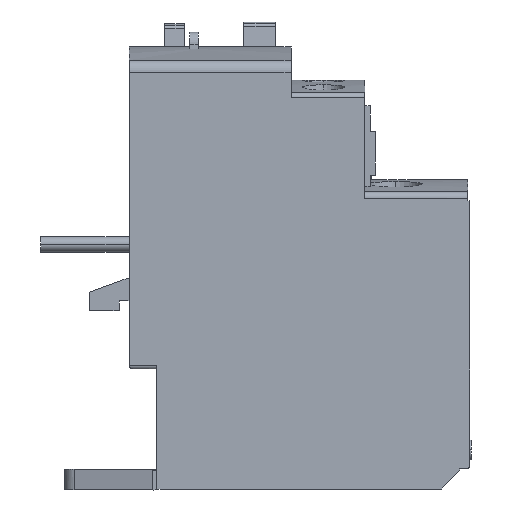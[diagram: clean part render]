
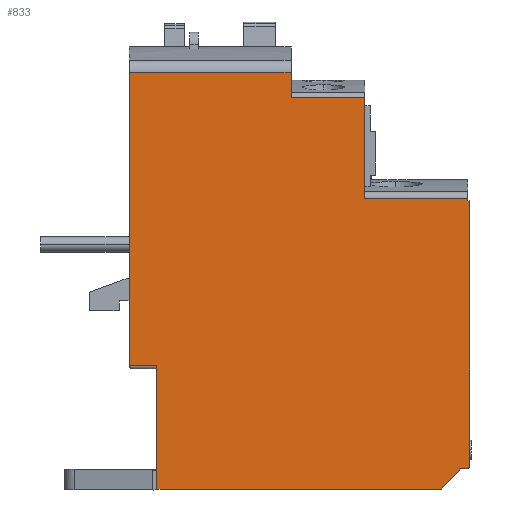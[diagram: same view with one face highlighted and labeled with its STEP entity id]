
A CAD part, left-side view. The second image highlights one B-rep face of the part: STEP entity #833.
In plain terms, the highlighted planar face has unit normal (-1, 0, 0).
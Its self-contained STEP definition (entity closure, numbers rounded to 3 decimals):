
#833=ADVANCED_FACE('',(#1720),#1721,.T.);
#1720=FACE_OUTER_BOUND('',#2628,.T.);
#1721=PLANE('',#2629);
#2628=EDGE_LOOP('',(#5109,#5110,#5111,#5112,#5113,#5114,#5115,#5116,#5117,#5118,#5119,#5120,#5121,#5122,#5123,#5124,#5125));
#2629=AXIS2_PLACEMENT_3D('',#5126,#5127,#5128);
#5109=ORIENTED_EDGE('',*,*,#7555,.F.);
#5110=ORIENTED_EDGE('',*,*,#7572,.T.);
#5111=ORIENTED_EDGE('',*,*,#7573,.T.);
#5112=ORIENTED_EDGE('',*,*,#7574,.F.);
#5113=ORIENTED_EDGE('',*,*,#7575,.F.);
#5114=ORIENTED_EDGE('',*,*,#7576,.F.);
#5115=ORIENTED_EDGE('',*,*,#7577,.F.);
#5116=ORIENTED_EDGE('',*,*,#7578,.F.);
#5117=ORIENTED_EDGE('',*,*,#7579,.F.);
#5118=ORIENTED_EDGE('',*,*,#7580,.F.);
#5119=ORIENTED_EDGE('',*,*,#7029,.F.);
#5120=ORIENTED_EDGE('',*,*,#7024,.F.);
#5121=ORIENTED_EDGE('',*,*,#7581,.T.);
#5122=ORIENTED_EDGE('',*,*,#7060,.T.);
#5123=ORIENTED_EDGE('',*,*,#7561,.T.);
#5124=ORIENTED_EDGE('',*,*,#7562,.T.);
#5125=ORIENTED_EDGE('',*,*,#7495,.T.);
#5126=CARTESIAN_POINT('',(-22.4,-21.325,29.208));
#5127=DIRECTION('',(-1.0,0.,0.));
#5128=DIRECTION('',(0.,-1.0,0.0));
#7024=EDGE_CURVE('',#8482,#8484,#8485,.T.);
#7029=EDGE_CURVE('',#8484,#8491,#8492,.T.);
#7060=EDGE_CURVE('',#8546,#8544,#8547,.T.);
#7495=EDGE_CURVE('',#9243,#9245,#9247,.T.);
#7555=EDGE_CURVE('',#9356,#9245,#9358,.T.);
#7561=EDGE_CURVE('',#8544,#9365,#9367,.T.);
#7562=EDGE_CURVE('',#9365,#9243,#9368,.T.);
#7572=EDGE_CURVE('',#9356,#9382,#9383,.T.);
#7573=EDGE_CURVE('',#9382,#9384,#9385,.T.);
#7574=EDGE_CURVE('',#9386,#9384,#9387,.T.);
#7575=EDGE_CURVE('',#9388,#9386,#9389,.T.);
#7576=EDGE_CURVE('',#9390,#9388,#9391,.T.);
#7577=EDGE_CURVE('',#9392,#9390,#9393,.T.);
#7578=EDGE_CURVE('',#9394,#9392,#9395,.T.);
#7579=EDGE_CURVE('',#9396,#9394,#9397,.T.);
#7580=EDGE_CURVE('',#8491,#9396,#9398,.T.);
#7581=EDGE_CURVE('',#8482,#8546,#9399,.T.);
#8482=VERTEX_POINT('',#11021);
#8484=VERTEX_POINT('',#11023);
#8485=LINE('',#11024,#11025);
#8491=VERTEX_POINT('',#11035);
#8492=LINE('',#11036,#11037);
#8544=VERTEX_POINT('',#11108);
#8546=VERTEX_POINT('',#11110);
#8547=LINE('',#11111,#11112);
#9243=VERTEX_POINT('',#12403);
#9245=VERTEX_POINT('',#12405);
#9247=LINE('',#12407,#12408);
#9356=VERTEX_POINT('',#12561);
#9358=LINE('',#12564,#12565);
#9365=VERTEX_POINT('',#12574);
#9367=LINE('',#12576,#12577);
#9368=LINE('',#12578,#12579);
#9382=VERTEX_POINT('',#12599);
#9383=LINE('',#12600,#12601);
#9384=VERTEX_POINT('',#12602);
#9385=LINE('',#12603,#12604);
#9386=VERTEX_POINT('',#12605);
#9387=LINE('',#12606,#12607);
#9388=VERTEX_POINT('',#12608);
#9389=LINE('',#12609,#12610);
#9390=VERTEX_POINT('',#12611);
#9391=LINE('',#12612,#12613);
#9392=VERTEX_POINT('',#12614);
#9393=LINE('',#12615,#12616);
#9394=VERTEX_POINT('',#12617);
#9395=LINE('',#12618,#12619);
#9396=VERTEX_POINT('',#12620);
#9397=CIRCLE('',#12621,0.5);
#9398=LINE('',#12622,#12623);
#9399=LINE('',#12624,#12625);
#11021=CARTESIAN_POINT('',(-22.4,-51.2,43.931));
#11023=CARTESIAN_POINT('',(-22.4,-51.2,43.57));
#11024=CARTESIAN_POINT('',(-22.4,-51.2,43.57));
#11025=VECTOR('',#14347,1.0);
#11035=CARTESIAN_POINT('',(-22.4,-51.5,43.57));
#11036=CARTESIAN_POINT('',(-22.4,-51.5,43.57));
#11037=VECTOR('',#14352,1.0);
#11108=CARTESIAN_POINT('',(-22.4,-35.625,59.149));
#11110=CARTESIAN_POINT('',(-22.4,-35.625,43.931));
#11111=CARTESIAN_POINT('',(-22.4,-35.625,38.239));
#11112=VECTOR('',#14405,1.0);
#12403=CARTESIAN_POINT('',(-22.4,-24.475,63.));
#12405=CARTESIAN_POINT('',(-22.4,0.,63.));
#12407=CARTESIAN_POINT('',(-22.4,-12.5,63.));
#12408=VECTOR('',#15002,1.0);
#12561=CARTESIAN_POINT('',(-22.4,0.,18.65));
#12564=CARTESIAN_POINT('',(-22.4,0.,66.807));
#12565=VECTOR('',#15090,1.0);
#12574=CARTESIAN_POINT('',(-22.4,-24.475,59.149));
#12576=CARTESIAN_POINT('',(-22.4,-32.475,59.149));
#12577=VECTOR('',#15102,1.0);
#12578=CARTESIAN_POINT('',(-22.4,-24.475,47.708));
#12579=VECTOR('',#15103,1.0);
#12599=CARTESIAN_POINT('',(-22.4,-4.176,18.65));
#12600=CARTESIAN_POINT('',(-22.4,-2.088,18.65));
#12601=VECTOR('',#15119,1.0);
#12602=CARTESIAN_POINT('',(-22.4,-4.176,-0.079));
#12603=CARTESIAN_POINT('',(-22.4,-4.176,24.97));
#12604=VECTOR('',#15120,1.0);
#12605=CARTESIAN_POINT('',(-22.4,-4.675,0.));
#12606=CARTESIAN_POINT('',(-22.4,-3.725,-0.15));
#12607=VECTOR('',#15121,1.0);
#12608=CARTESIAN_POINT('',(-22.4,-47.15,0.));
#12609=CARTESIAN_POINT('',(-22.4,-4.675,0.));
#12610=VECTOR('',#15122,1.0);
#12611=CARTESIAN_POINT('',(-22.4,-49.95,2.8));
#12612=CARTESIAN_POINT('',(-22.4,-47.15,0.));
#12613=VECTOR('',#15123,1.0);
#12614=CARTESIAN_POINT('',(-22.4,-50.0,3.1));
#12615=CARTESIAN_POINT('',(-22.4,-49.95,2.8));
#12616=VECTOR('',#15124,1.0);
#12617=CARTESIAN_POINT('',(-22.4,-51.0,3.1));
#12618=CARTESIAN_POINT('',(-22.4,-50.0,3.1));
#12619=VECTOR('',#15125,1.0);
#12620=CARTESIAN_POINT('',(-22.4,-51.5,3.6));
#12621=AXIS2_PLACEMENT_3D('',#15126,#15127,#15128);
#12622=CARTESIAN_POINT('',(-22.4,-51.5,3.6));
#12623=VECTOR('',#15129,1.0);
#12624=CARTESIAN_POINT('',(-22.4,-43.563,43.931));
#12625=VECTOR('',#15130,1.0);
#14347=DIRECTION('',(0.,-0.001,-1.));
#14352=DIRECTION('',(0.,-1.,0.));
#14405=DIRECTION('',(0.,0.,1.0));
#15002=DIRECTION('',(-0.0,1.0,0.));
#15090=DIRECTION('',(0.,0.,1.0));
#15102=DIRECTION('',(-0.0,1.0,0.));
#15103=DIRECTION('',(0.,0.,1.0));
#15119=DIRECTION('',(-0.0,-1.0,0.));
#15120=DIRECTION('',(0.,0.,-1.0));
#15121=DIRECTION('',(0.,0.988,-0.156));
#15122=DIRECTION('',(0.,1.0,0.));
#15123=DIRECTION('',(0.,0.707,-0.707));
#15124=DIRECTION('',(0.,0.164,-0.986));
#15125=DIRECTION('',(0.,1.0,0.));
#15126=CARTESIAN_POINT('',(-22.4,-51.0,3.6));
#15127=DIRECTION('',(1.0,0.,0.));
#15128=DIRECTION('',(0.,-1.0,0.0));
#15129=DIRECTION('',(0.,0.,-1.0));
#15130=DIRECTION('',(-0.0,1.0,0.));
